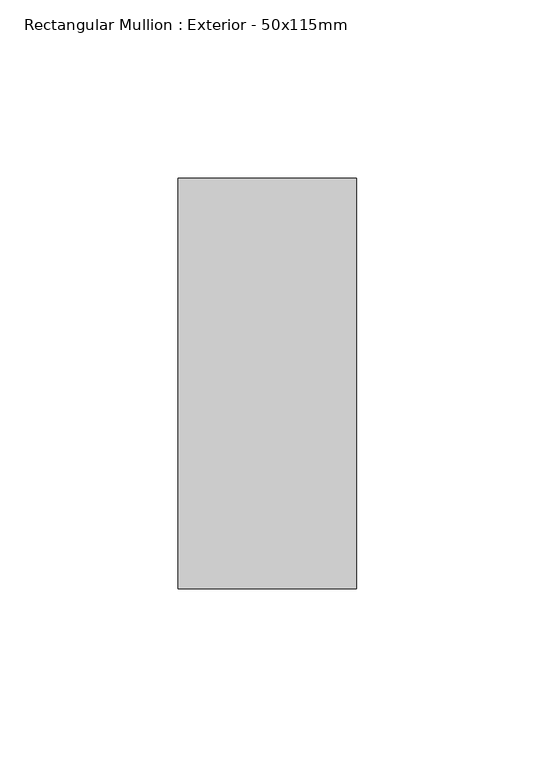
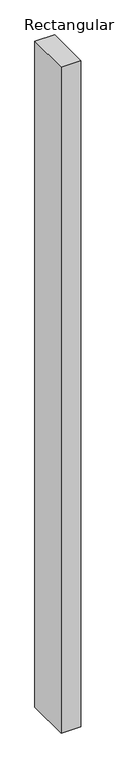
"""IFC4 building model written with IfcOpenShell, lengths in millimetres: member geometry, Rectangular Mullion : Exterior - 50x115mm."""

from ifc_helpers import new_model, si_unit, frame, origin, place, context, project, spatial, polyline, outline, extrude, source, transform, mapped, element, save


def rectangular_mullion_exterior_50x115mm_4f10aaa5(model_context):
    return source(origin(), model_context, "Body", "SweptSolid", [
        extrude(outline(polyline([(25.0, 115.0), (25.0, 0.0), (-25.0, 0.0), (-25.0, 115.0), (25.0, 115.0)])), frame((0.0, 0.0, -1785.0), z_axis=(0.0, 0.0, 1.0), x_axis=(1.0, 0.0, 0.0)), (0.0, 0.0, 1.0), 1785.0),
    ])


if __name__ == "__main__":
    model = new_model("IFC4")
    model_context = context("Model", 3, world=origin())
    ifc_project = project(units=[si_unit("LENGTHUNIT", "METRE", prefix="MILLI")], contexts=[model_context])
    site = spatial("IfcSite", under=ifc_project)
    building = spatial("IfcBuilding", under=site)
    placement = place(None, origin())
    rectangular_mullion_exterior_50x115mm_shape = rectangular_mullion_exterior_50x115mm_4f10aaa5(model_context)
    element("IfcMember", 1, ObjectType="Rectangular Mullion : Exterior - 50x115mm", at=placement, inside=building, context=model_context, shape_type="MappedRepresentation", body=[
        mapped(rectangular_mullion_exterior_50x115mm_shape, transform((0.0, 0.0, 0.0), x_axis=(1.0, 0.0, 0.0), y_axis=(0.0, 1.0, 0.0), z_axis=(0.0, 0.0, 1.0))),
    ])
    save(model, "model.ifc")
